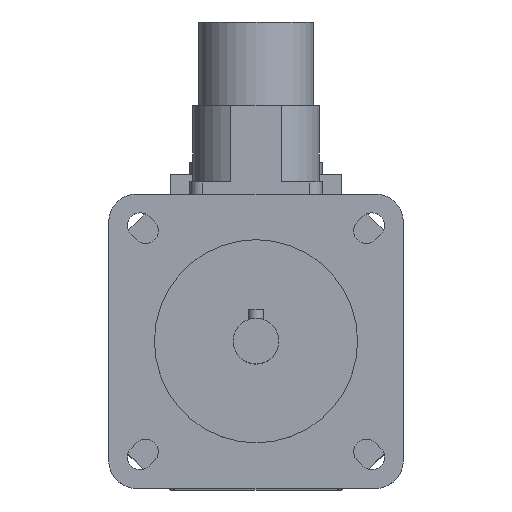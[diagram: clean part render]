
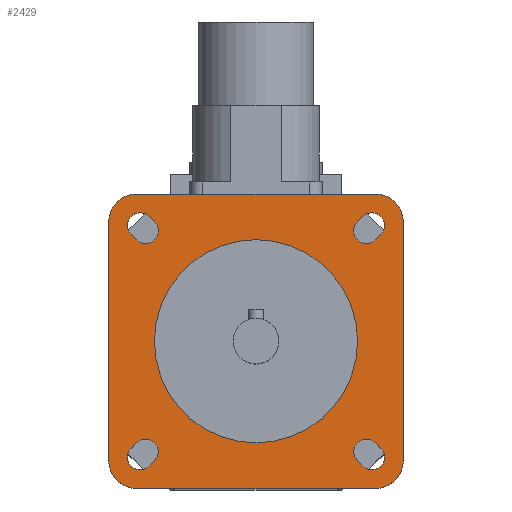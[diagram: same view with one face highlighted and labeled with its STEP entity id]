
A CAD part, top view. The second image highlights one B-rep face of the part: STEP entity #2429.
In plain terms, the highlighted planar face has unit normal (0, 0, 1).
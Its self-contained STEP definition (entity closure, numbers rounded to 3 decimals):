
#28=FACE_BOUND('',#427,.T.);
#29=FACE_BOUND('',#428,.T.);
#30=FACE_BOUND('',#429,.T.);
#31=FACE_BOUND('',#430,.T.);
#32=FACE_BOUND('',#431,.T.);
#47=CIRCLE('',#2525,20.);
#84=CIRCLE('',#2589,2.5);
#88=CIRCLE('',#2596,2.5);
#89=CIRCLE('',#2599,2.5);
#90=CIRCLE('',#2602,2.5);
#100=CIRCLE('',#2617,2.5);
#101=CIRCLE('',#2620,2.5);
#102=CIRCLE('',#2623,2.5);
#103=CIRCLE('',#2626,2.5);
#104=CIRCLE('',#2628,5.5);
#105=CIRCLE('',#2630,5.5);
#106=CIRCLE('',#2632,5.5);
#107=CIRCLE('',#2634,5.5);
#282=FACE_OUTER_BOUND('',#426,.T.);
#426=EDGE_LOOP('',(#1862,#1863,#1864,#1865,#1866,#1867,#1868,#1869));
#427=EDGE_LOOP('',(#1870));
#428=EDGE_LOOP('',(#1871,#1872,#1873,#1874));
#429=EDGE_LOOP('',(#1875,#1876,#1877,#1878));
#430=EDGE_LOOP('',(#1879,#1880,#1881,#1882));
#431=EDGE_LOOP('',(#1883,#1884,#1885,#1886));
#576=LINE('',#3759,#807);
#584=LINE('',#3783,#815);
#588=LINE('',#3793,#819);
#592=LINE('',#3803,#823);
#608=LINE('',#3854,#839);
#610=LINE('',#3860,#841);
#612=LINE('',#3866,#843);
#614=LINE('',#3872,#845);
#623=LINE('',#3900,#854);
#624=LINE('',#3901,#855);
#625=LINE('',#3902,#856);
#626=LINE('',#3903,#857);
#807=VECTOR('',#2980,1.5);
#815=VECTOR('',#3002,1.5);
#819=VECTOR('',#3012,1.5);
#823=VECTOR('',#3022,1.5);
#839=VECTOR('',#3068,1.5);
#841=VECTOR('',#3076,1.5);
#843=VECTOR('',#3084,1.5);
#845=VECTOR('',#3092,1.5);
#854=VECTOR('',#3123,47.);
#855=VECTOR('',#3124,47.);
#856=VECTOR('',#3125,47.);
#857=VECTOR('',#3126,47.);
#992=VERTEX_POINT('',#3580);
#1057=VERTEX_POINT('',#3756);
#1058=VERTEX_POINT('',#3758);
#1059=VERTEX_POINT('',#3762);
#1066=VERTEX_POINT('',#3780);
#1067=VERTEX_POINT('',#3782);
#1068=VERTEX_POINT('',#3786);
#1069=VERTEX_POINT('',#3790);
#1070=VERTEX_POINT('',#3792);
#1071=VERTEX_POINT('',#3796);
#1072=VERTEX_POINT('',#3800);
#1073=VERTEX_POINT('',#3802);
#1074=VERTEX_POINT('',#3806);
#1093=VERTEX_POINT('',#3852);
#1094=VERTEX_POINT('',#3858);
#1095=VERTEX_POINT('',#3864);
#1096=VERTEX_POINT('',#3870);
#1097=VERTEX_POINT('',#3876);
#1098=VERTEX_POINT('',#3878);
#1099=VERTEX_POINT('',#3882);
#1100=VERTEX_POINT('',#3884);
#1101=VERTEX_POINT('',#3888);
#1102=VERTEX_POINT('',#3890);
#1103=VERTEX_POINT('',#3894);
#1104=VERTEX_POINT('',#3896);
#1234=EDGE_CURVE('',#992,#992,#47,.T.);
#1320=EDGE_CURVE('',#1058,#1057,#576,.T.);
#1323=EDGE_CURVE('',#1057,#1059,#84,.T.);
#1332=EDGE_CURVE('',#1067,#1066,#584,.T.);
#1335=EDGE_CURVE('',#1066,#1068,#88,.T.);
#1337=EDGE_CURVE('',#1070,#1069,#588,.T.);
#1340=EDGE_CURVE('',#1069,#1071,#89,.T.);
#1342=EDGE_CURVE('',#1073,#1072,#592,.T.);
#1345=EDGE_CURVE('',#1072,#1074,#90,.T.);
#1368=EDGE_CURVE('',#1071,#1093,#608,.T.);
#1369=EDGE_CURVE('',#1093,#1070,#100,.T.);
#1371=EDGE_CURVE('',#1068,#1094,#610,.T.);
#1372=EDGE_CURVE('',#1094,#1067,#101,.T.);
#1374=EDGE_CURVE('',#1074,#1095,#612,.T.);
#1375=EDGE_CURVE('',#1095,#1073,#102,.T.);
#1377=EDGE_CURVE('',#1059,#1096,#614,.T.);
#1378=EDGE_CURVE('',#1096,#1058,#103,.T.);
#1380=EDGE_CURVE('',#1098,#1097,#104,.T.);
#1383=EDGE_CURVE('',#1100,#1099,#105,.T.);
#1386=EDGE_CURVE('',#1102,#1101,#106,.T.);
#1389=EDGE_CURVE('',#1104,#1103,#107,.T.);
#1391=EDGE_CURVE('',#1097,#1104,#623,.T.);
#1392=EDGE_CURVE('',#1103,#1102,#624,.T.);
#1393=EDGE_CURVE('',#1101,#1100,#625,.T.);
#1394=EDGE_CURVE('',#1099,#1098,#626,.T.);
#1862=ORIENTED_EDGE('',*,*,#1391,.T.);
#1863=ORIENTED_EDGE('',*,*,#1389,.T.);
#1864=ORIENTED_EDGE('',*,*,#1392,.T.);
#1865=ORIENTED_EDGE('',*,*,#1386,.T.);
#1866=ORIENTED_EDGE('',*,*,#1393,.T.);
#1867=ORIENTED_EDGE('',*,*,#1383,.T.);
#1868=ORIENTED_EDGE('',*,*,#1394,.T.);
#1869=ORIENTED_EDGE('',*,*,#1380,.T.);
#1870=ORIENTED_EDGE('',*,*,#1234,.T.);
#1871=ORIENTED_EDGE('',*,*,#1368,.T.);
#1872=ORIENTED_EDGE('',*,*,#1369,.T.);
#1873=ORIENTED_EDGE('',*,*,#1337,.T.);
#1874=ORIENTED_EDGE('',*,*,#1340,.T.);
#1875=ORIENTED_EDGE('',*,*,#1371,.T.);
#1876=ORIENTED_EDGE('',*,*,#1372,.T.);
#1877=ORIENTED_EDGE('',*,*,#1332,.T.);
#1878=ORIENTED_EDGE('',*,*,#1335,.T.);
#1879=ORIENTED_EDGE('',*,*,#1374,.T.);
#1880=ORIENTED_EDGE('',*,*,#1375,.T.);
#1881=ORIENTED_EDGE('',*,*,#1342,.T.);
#1882=ORIENTED_EDGE('',*,*,#1345,.T.);
#1883=ORIENTED_EDGE('',*,*,#1377,.T.);
#1884=ORIENTED_EDGE('',*,*,#1378,.T.);
#1885=ORIENTED_EDGE('',*,*,#1320,.T.);
#1886=ORIENTED_EDGE('',*,*,#1323,.T.);
#2328=PLANE('',#2635);
#2429=ADVANCED_FACE('',(#282,#28,#29,#30,#31,#32),#2328,.T.);
#2525=AXIS2_PLACEMENT_3D('',#3581,#2805,#2806);
#2589=AXIS2_PLACEMENT_3D('',#3764,#2985,#2986);
#2596=AXIS2_PLACEMENT_3D('',#3788,#3007,#3008);
#2599=AXIS2_PLACEMENT_3D('',#3798,#3017,#3018);
#2602=AXIS2_PLACEMENT_3D('',#3808,#3027,#3028);
#2617=AXIS2_PLACEMENT_3D('',#3856,#3071,#3072);
#2620=AXIS2_PLACEMENT_3D('',#3862,#3079,#3080);
#2623=AXIS2_PLACEMENT_3D('',#3868,#3087,#3088);
#2626=AXIS2_PLACEMENT_3D('',#3874,#3095,#3096);
#2628=AXIS2_PLACEMENT_3D('',#3879,#3100,#3101);
#2630=AXIS2_PLACEMENT_3D('',#3885,#3106,#3107);
#2632=AXIS2_PLACEMENT_3D('',#3891,#3112,#3113);
#2634=AXIS2_PLACEMENT_3D('',#3897,#3118,#3119);
#2635=AXIS2_PLACEMENT_3D('',#3899,#3121,#3122);
#2805=DIRECTION('center_axis',(0.,0.,-1.));
#2806=DIRECTION('ref_axis',(-1.,0.,0.));
#2980=DIRECTION('',(-0.707,-0.707,0.));
#2985=DIRECTION('center_axis',(0.,0.,-1.));
#2986=DIRECTION('ref_axis',(0.707,-0.707,0.));
#3002=DIRECTION('',(-0.707,0.707,0.));
#3007=DIRECTION('center_axis',(0.,0.,-1.));
#3008=DIRECTION('ref_axis',(-0.707,-0.707,0.));
#3012=DIRECTION('',(-0.707,-0.707,0.));
#3017=DIRECTION('center_axis',(0.,0.,-1.));
#3018=DIRECTION('ref_axis',(0.707,-0.707,0.));
#3022=DIRECTION('',(-0.707,0.707,0.));
#3027=DIRECTION('center_axis',(0.,0.,-1.));
#3028=DIRECTION('ref_axis',(-0.707,-0.707,0.));
#3068=DIRECTION('',(0.707,0.707,0.));
#3071=DIRECTION('center_axis',(0.,0.,-1.));
#3072=DIRECTION('ref_axis',(-0.707,0.707,0.));
#3076=DIRECTION('',(0.707,-0.707,0.));
#3079=DIRECTION('center_axis',(0.,0.,-1.));
#3080=DIRECTION('ref_axis',(0.707,0.707,0.));
#3084=DIRECTION('',(0.707,-0.707,0.));
#3087=DIRECTION('center_axis',(0.,0.,-1.));
#3088=DIRECTION('ref_axis',(0.707,0.707,0.));
#3092=DIRECTION('',(0.707,0.707,0.));
#3095=DIRECTION('center_axis',(0.,0.,-1.));
#3096=DIRECTION('ref_axis',(-0.707,0.707,0.));
#3100=DIRECTION('center_axis',(0.,0.,1.));
#3101=DIRECTION('ref_axis',(1.,0.,0.));
#3106=DIRECTION('center_axis',(0.,0.,1.));
#3107=DIRECTION('ref_axis',(0.,-1.,0.));
#3112=DIRECTION('center_axis',(0.,0.,1.));
#3113=DIRECTION('ref_axis',(-1.,0.,0.));
#3118=DIRECTION('center_axis',(0.,0.,1.));
#3119=DIRECTION('ref_axis',(0.,1.,0.));
#3121=DIRECTION('center_axis',(0.,0.,1.));
#3122=DIRECTION('ref_axis',(1.,0.,0.));
#3123=DIRECTION('',(-1.,0.,0.));
#3124=DIRECTION('',(0.,-1.,0.));
#3125=DIRECTION('',(1.,0.,0.));
#3126=DIRECTION('',(0.,1.,0.));
#3580=CARTESIAN_POINT('',(20.,0.,100.5));
#3581=CARTESIAN_POINT('Origin',(0.,0.,100.5));
#3756=CARTESIAN_POINT('',(-21.036,-24.572,100.5));
#3758=CARTESIAN_POINT('',(-19.976,-23.511,100.5));
#3759=CARTESIAN_POINT('',(-9.634,-13.17,100.5));
#3762=CARTESIAN_POINT('',(-24.572,-21.036,100.5));
#3764=CARTESIAN_POINT('Origin',(-22.804,-22.804,100.5));
#3780=CARTESIAN_POINT('',(-24.572,21.036,100.5));
#3782=CARTESIAN_POINT('',(-23.511,19.976,100.5));
#3783=CARTESIAN_POINT('',(-13.17,9.634,100.5));
#3786=CARTESIAN_POINT('',(-21.036,24.572,100.5));
#3788=CARTESIAN_POINT('Origin',(-22.804,22.804,100.5));
#3790=CARTESIAN_POINT('',(23.511,19.976,100.5));
#3792=CARTESIAN_POINT('',(24.572,21.036,100.5));
#3793=CARTESIAN_POINT('',(12.64,9.104,100.5));
#3796=CARTESIAN_POINT('',(19.976,23.511,100.5));
#3798=CARTESIAN_POINT('Origin',(21.744,21.744,100.5));
#3800=CARTESIAN_POINT('',(19.976,-23.511,100.5));
#3802=CARTESIAN_POINT('',(21.036,-24.572,100.5));
#3803=CARTESIAN_POINT('',(9.104,-12.64,100.5));
#3806=CARTESIAN_POINT('',(23.511,-19.976,100.5));
#3808=CARTESIAN_POINT('Origin',(21.744,-21.744,100.5));
#3852=CARTESIAN_POINT('',(21.036,24.572,100.5));
#3854=CARTESIAN_POINT('',(9.634,13.17,100.5));
#3856=CARTESIAN_POINT('Origin',(22.804,22.804,100.5));
#3858=CARTESIAN_POINT('',(-19.976,23.511,100.5));
#3860=CARTESIAN_POINT('',(-9.104,12.64,100.5));
#3862=CARTESIAN_POINT('Origin',(-21.744,21.744,100.5));
#3864=CARTESIAN_POINT('',(24.572,-21.036,100.5));
#3866=CARTESIAN_POINT('',(13.17,-9.634,100.5));
#3868=CARTESIAN_POINT('Origin',(22.804,-22.804,100.5));
#3870=CARTESIAN_POINT('',(-23.511,-19.976,100.5));
#3872=CARTESIAN_POINT('',(-12.64,-9.104,100.5));
#3874=CARTESIAN_POINT('Origin',(-21.744,-21.744,100.5));
#3876=CARTESIAN_POINT('',(23.5,29.,100.5));
#3878=CARTESIAN_POINT('',(29.,23.5,100.5));
#3879=CARTESIAN_POINT('Origin',(23.5,23.5,100.5));
#3882=CARTESIAN_POINT('',(29.,-23.5,100.5));
#3884=CARTESIAN_POINT('',(23.5,-29.,100.5));
#3885=CARTESIAN_POINT('Origin',(23.5,-23.5,100.5));
#3888=CARTESIAN_POINT('',(-23.5,-29.,100.5));
#3890=CARTESIAN_POINT('',(-29.,-23.5,100.5));
#3891=CARTESIAN_POINT('Origin',(-23.5,-23.5,100.5));
#3894=CARTESIAN_POINT('',(-29.,23.5,100.5));
#3896=CARTESIAN_POINT('',(-23.5,29.,100.5));
#3897=CARTESIAN_POINT('Origin',(-23.5,23.5,100.5));
#3899=CARTESIAN_POINT('Origin',(0.,0.,
100.5));
#3900=CARTESIAN_POINT('',(23.5,29.,100.5));
#3901=CARTESIAN_POINT('',(-29.,23.5,100.5));
#3902=CARTESIAN_POINT('',(-23.5,-29.,100.5));
#3903=CARTESIAN_POINT('',(29.,-23.5,100.5));
